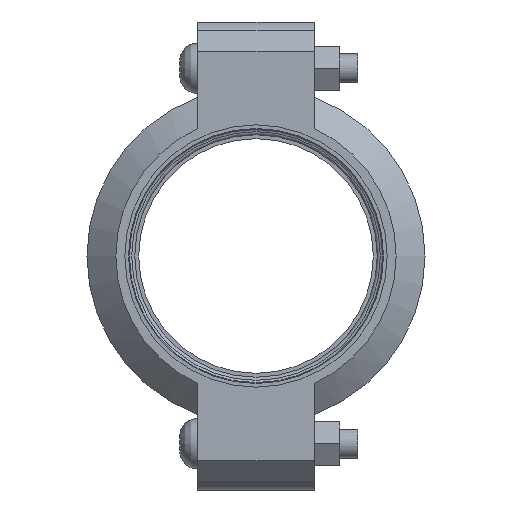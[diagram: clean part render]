
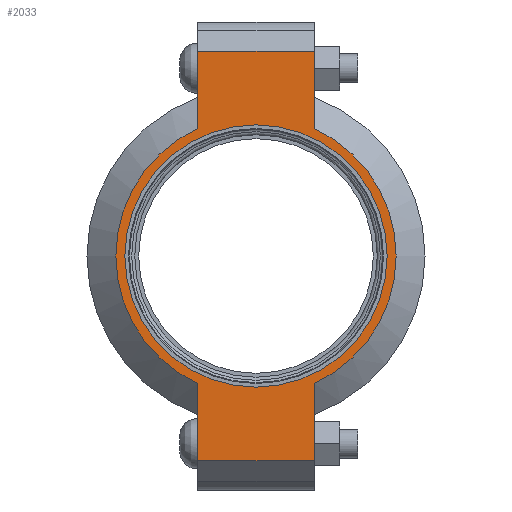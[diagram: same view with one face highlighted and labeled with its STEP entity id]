
A CAD part, left-side view. The second image highlights one B-rep face of the part: STEP entity #2033.
In plain terms, the highlighted planar face has unit normal (-1, 0, 0) as drawn and (0, 0, 1) by its records, which use the part's own axes.
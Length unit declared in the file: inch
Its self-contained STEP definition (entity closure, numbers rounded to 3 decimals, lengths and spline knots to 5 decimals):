
#166=LINE('',#3626,#265);
#174=LINE('',#3662,#273);
#181=LINE('',#3683,#280);
#190=LINE('',#3715,#289);
#191=LINE('',#3719,#290);
#192=LINE('',#3721,#291);
#265=VECTOR('',#2972,0.3937);
#273=VECTOR('',#2988,0.3937);
#280=VECTOR('',#3007,0.3937);
#289=VECTOR('',#3032,0.3937);
#290=VECTOR('',#3037,0.3937);
#291=VECTOR('',#3038,0.3937);
#351=FACE_BOUND('',#621,.T.);
#397=PLANE('',#2398);
#493=FACE_OUTER_BOUND('',#620,.T.);
#620=EDGE_LOOP('',(#1762,#1763,#1764,#1765,#1766,#1767,#1768,#1769));
#621=EDGE_LOOP('',(#1770));
#768=CIRCLE('',#2340,2.25);
#794=CIRCLE('',#2399,2.405);
#795=CIRCLE('',#2400,2.405);
#919=VERTEX_POINT('',#3442);
#962=VERTEX_POINT('',#3623);
#963=VERTEX_POINT('',#3625);
#974=VERTEX_POINT('',#3657);
#975=VERTEX_POINT('',#3661);
#982=VERTEX_POINT('',#3680);
#983=VERTEX_POINT('',#3682);
#993=VERTEX_POINT('',#3718);
#994=VERTEX_POINT('',#3720);
#1156=EDGE_CURVE('',#919,#919,#768,.T.);
#1217=EDGE_CURVE('',#963,#962,#166,.T.);
#1231=EDGE_CURVE('',#975,#974,#174,.T.);
#1241=EDGE_CURVE('',#983,#982,#181,.T.);
#1256=EDGE_CURVE('',#975,#962,#190,.T.);
#1257=EDGE_CURVE('',#974,#983,#794,.T.);
#1258=EDGE_CURVE('',#993,#982,#191,.T.);
#1259=EDGE_CURVE('',#993,#994,#192,.T.);
#1260=EDGE_CURVE('',#994,#963,#795,.T.);
#1762=ORIENTED_EDGE('',*,*,#1256,.F.);
#1763=ORIENTED_EDGE('',*,*,#1231,.T.);
#1764=ORIENTED_EDGE('',*,*,#1257,.T.);
#1765=ORIENTED_EDGE('',*,*,#1241,.T.);
#1766=ORIENTED_EDGE('',*,*,#1258,.F.);
#1767=ORIENTED_EDGE('',*,*,#1259,.T.);
#1768=ORIENTED_EDGE('',*,*,#1260,.T.);
#1769=ORIENTED_EDGE('',*,*,#1217,.T.);
#1770=ORIENTED_EDGE('',*,*,#1156,.T.);
#2033=ADVANCED_FACE('',(#493,#351),#397,.T.);
#2340=AXIS2_PLACEMENT_3D('',#3444,#2848,#2849);
#2398=AXIS2_PLACEMENT_3D('',#3716,#3033,#3034);
#2399=AXIS2_PLACEMENT_3D('',#3717,#3035,#3036);
#2400=AXIS2_PLACEMENT_3D('',#3722,#3039,#3040);
#2848=DIRECTION('center_axis',(0.,0.,-1.));
#2849=DIRECTION('ref_axis',(1.,0.,0.));
#2972=DIRECTION('',(1.,0.,0.));
#2988=DIRECTION('',(-1.,0.,0.));
#3007=DIRECTION('',(-1.,0.,0.));
#3032=DIRECTION('',(0.,-1.,0.));
#3033=DIRECTION('center_axis',(0.,0.,1.));
#3034=DIRECTION('ref_axis',(-1.,0.,0.));
#3035=DIRECTION('center_axis',(0.,0.,1.));
#3036=DIRECTION('ref_axis',(1.,0.,0.));
#3037=DIRECTION('',(0.,1.,0.));
#3038=DIRECTION('',(1.,0.,0.));
#3039=DIRECTION('center_axis',(0.,0.,1.));
#3040=DIRECTION('ref_axis',(1.,0.,0.));
#3442=CARTESIAN_POINT('',(-2.25,0.,1.065));
#3444=CARTESIAN_POINT('Origin',(0.,0.,1.065));
#3623=CARTESIAN_POINT('',(3.515,-1.,1.065));
#3625=CARTESIAN_POINT('',(2.18724,-1.,1.065));
#3626=CARTESIAN_POINT('',(4.015,-1.,1.065));
#3657=CARTESIAN_POINT('',(2.18724,1.,1.065));
#3661=CARTESIAN_POINT('',(3.515,1.,1.065));
#3662=CARTESIAN_POINT('',(-4.015,1.,1.065));
#3680=CARTESIAN_POINT('',(-3.515,1.,1.065));
#3682=CARTESIAN_POINT('',(-2.18724,1.,1.065));
#3683=CARTESIAN_POINT('',(-4.015,1.,1.065));
#3715=CARTESIAN_POINT('',(3.515,-0.5,1.065));
#3716=CARTESIAN_POINT('Origin',(0.,0.,
1.065));
#3717=CARTESIAN_POINT('Origin',(0.,0.,1.065));
#3718=CARTESIAN_POINT('',(-3.515,-1.,1.065));
#3719=CARTESIAN_POINT('',(-3.515,0.5,1.065));
#3720=CARTESIAN_POINT('',(-2.18724,-1.,1.065));
#3721=CARTESIAN_POINT('',(4.015,-1.,1.065));
#3722=CARTESIAN_POINT('Origin',(0.,0.,1.065));
